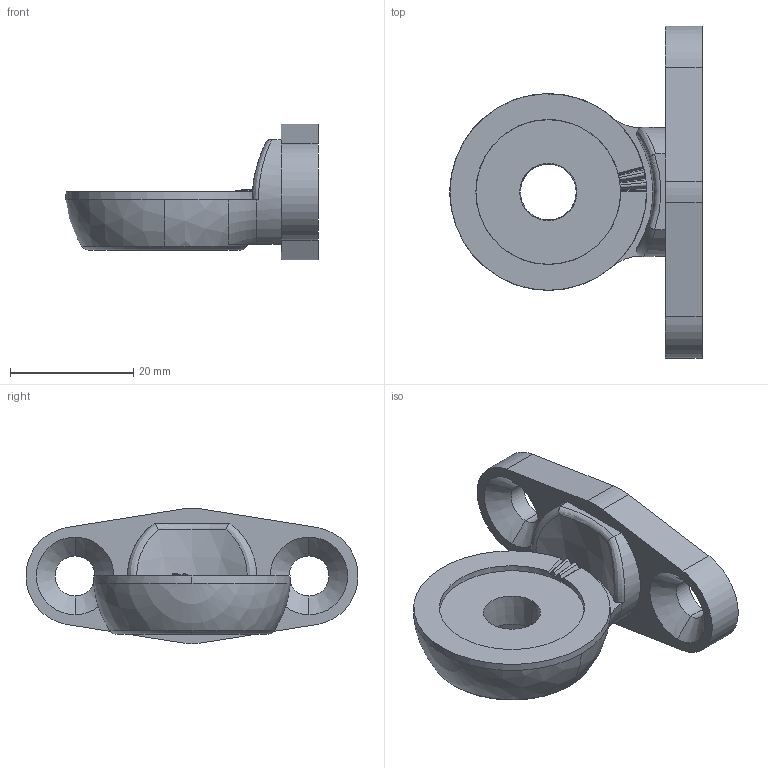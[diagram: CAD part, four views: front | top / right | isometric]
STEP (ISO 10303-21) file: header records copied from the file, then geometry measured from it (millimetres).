
FILE_DESCRIPTION (( 'STEP AP214' ), '1' );
FILE_NAME ('187.5-32-60-DH-NI.step', '2019-06-28T09:26:32', ( 'user' ), ( '' ), 'SwSTEP 2.0', 'SolidWorks 2019', '' );
FILE_SCHEMA (( 'AUTOMOTIVE_DESIGN' ));
Length unit declared in the file: millimetre
Products named in the file (1): 187.5-32-60-DH-NI
Bounding box: 41 x 53.94 x 21.98 mm (x, y, z)
Volume: 11668.5 mm3; surface area: 5240.1 mm2
Topology: 1 solids, 1 shells, 61 faces, 162 edges, 106 vertices
Faces by surface type: plane 25, cone 11, cylinder 11, bspline 7, torus 5, sphere 2
Entity records: 2413 total; most frequent: CARTESIAN_POINT 909, ORIENTED_EDGE 324, DIRECTION 289, EDGE_CURVE 162, AXIS2_PLACEMENT_3D 112, VERTEX_POINT 106, EDGE_LOOP 70, VECTOR 65
